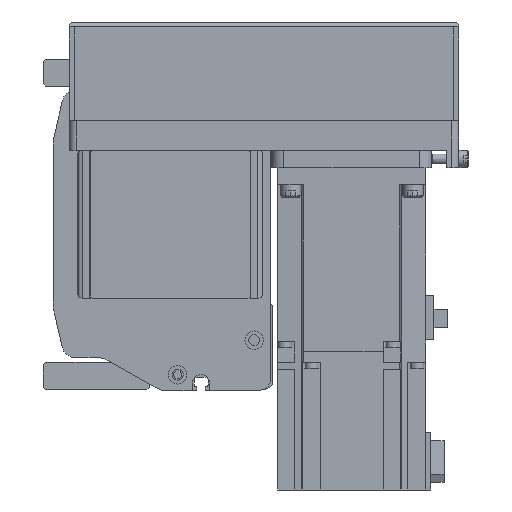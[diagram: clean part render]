
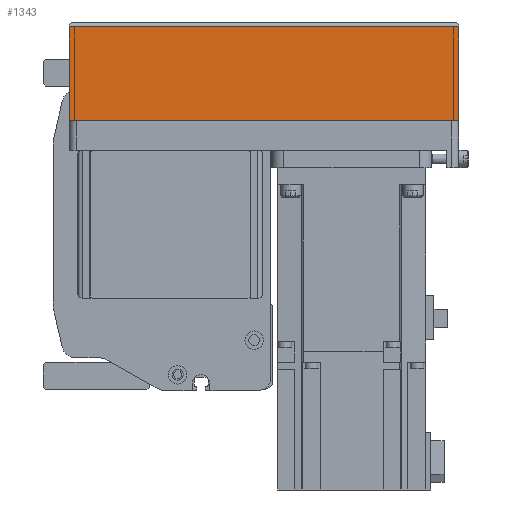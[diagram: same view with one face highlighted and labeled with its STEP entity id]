
A CAD part, left-side view. The second image highlights one B-rep face of the part: STEP entity #1343.
In plain terms, the highlighted planar face has unit normal (-1, 0, 0) as drawn and (0, -1, 0) by its records, which use the part's own axes.
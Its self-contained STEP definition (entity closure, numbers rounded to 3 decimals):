
#1343 = ADVANCED_FACE( '', ( #3561 ), #3562, .T. );
#3561 = FACE_OUTER_BOUND( '', #6941, .T. );
#3562 = PLANE( '', #6942 );
#6941 = EDGE_LOOP( '', ( #10818, #10819, #10820, #10821 ) );
#6942 = AXIS2_PLACEMENT_3D( '', #10822, #10823, #10824 );
#10818 = ORIENTED_EDGE( '', *, *, #19657, .F. );
#10819 = ORIENTED_EDGE( '', *, *, #19658, .F. );
#10820 = ORIENTED_EDGE( '', *, *, #19416, .T. );
#10821 = ORIENTED_EDGE( '', *, *, #19659, .T. );
#10822 = CARTESIAN_POINT( '', ( -158., -39., -12.1 ) );
#10823 = DIRECTION( '', ( 0., -1., 0. ) );
#10824 = DIRECTION( '', ( 0., 0., -1. ) );
#19416 = EDGE_CURVE( '', #23180, #23184, #23186, .T. );
#19657 = EDGE_CURVE( '', #23612, #23613, #23614, .T. );
#19658 = EDGE_CURVE( '', #23180, #23612, #23615, .T. );
#19659 = EDGE_CURVE( '', #23184, #23613, #23616, .T. );
#23180 = VERTEX_POINT( '', #28629 );
#23184 = VERTEX_POINT( '', #28635 );
#23186 = LINE( '', #28638, #28639 );
#23612 = VERTEX_POINT( '', #29344 );
#23613 = VERTEX_POINT( '', #29345 );
#23614 = LINE( '', #29346, #29347 );
#23615 = LINE( '', #29348, #29349 );
#23616 = LINE( '', #29350, #29351 );
#28629 = CARTESIAN_POINT( '', ( -158., -39., -12.1 ) );
#28635 = CARTESIAN_POINT( '', ( -158., -39., -50. ) );
#28638 = CARTESIAN_POINT( '', ( -158., -39., -12.1 ) );
#28639 = VECTOR( '', #36204, 1000. );
#29344 = CARTESIAN_POINT( '', ( 0., -39., -12.1 ) );
#29345 = CARTESIAN_POINT( '', ( 0., -39., -50. ) );
#29346 = CARTESIAN_POINT( '', ( 0., -39., -12.1 ) );
#29347 = VECTOR( '', #36499, 1000. );
#29348 = CARTESIAN_POINT( '', ( -158., -39., -12.1 ) );
#29349 = VECTOR( '', #36500, 1000. );
#29350 = CARTESIAN_POINT( '', ( -158., -39., -50. ) );
#29351 = VECTOR( '', #36501, 1000. );
#36204 = DIRECTION( '', ( 0., 0., -1. ) );
#36499 = DIRECTION( '', ( 0., 0., -1. ) );
#36500 = DIRECTION( '', ( 1., 0., 0. ) );
#36501 = DIRECTION( '', ( 1., 0., 0. ) );
